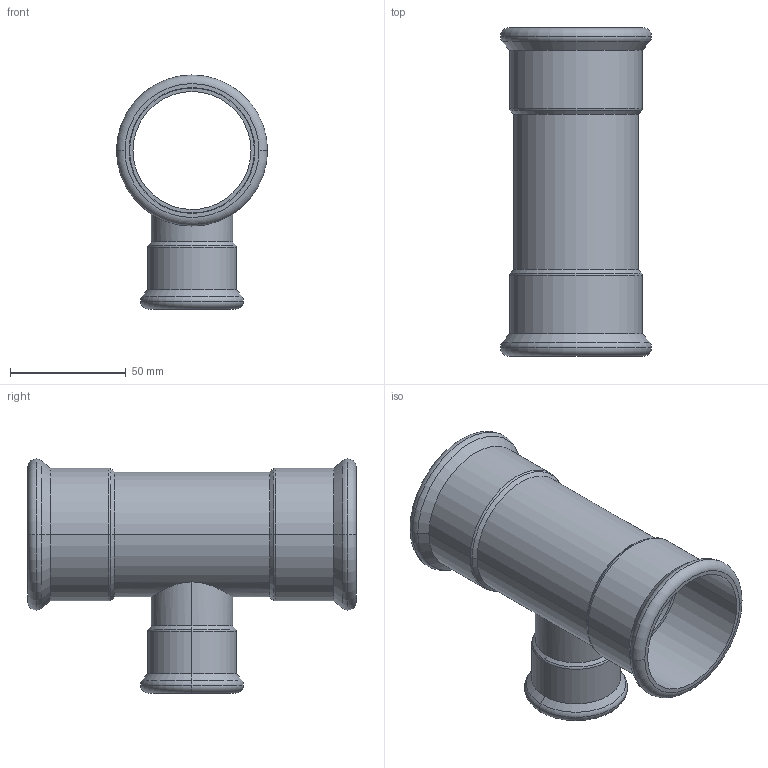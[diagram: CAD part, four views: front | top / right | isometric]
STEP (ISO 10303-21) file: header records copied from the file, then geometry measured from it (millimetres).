
FILE_DESCRIPTION(('CoCreate Modeling STEP Export'),'2;1');
FILE_NAME('C1415 54x35x54.stp','2014-11-12T10:46:30',(''),(''),'CoCreate Modeling STEP processor for AP214 (Solid Model)','CoCreate Modeling 17.00A 17-Jun-2010 (C) Parametric Technology GmbH','');
FILE_SCHEMA(('AUTOMOTIVE_DESIGN { 1 0 10303 214 1 1 1 1 }'));
Length unit declared in the file: millimetre
Products named in the file (2): C1415_54x35x54
Assembly tree (1 placements, depth 2):
  C1415_54x35x54
    C1415_54x35x54
Bounding box: 65.3 x 142 x 101.15 mm (x, y, z)
Volume: 57230.2 mm3; surface area: 62427.5 mm2
Topology: 1 solids, 1 shells, 66 faces, 134 edges, 78 vertices
Faces by surface type: cylinder 27, torus 18, cone 12, plane 9
Entity records: 2629 total; most frequent: CARTESIAN_POINT 1402, ORIENTED_EDGE 268, DIRECTION 220, EDGE_CURVE 134, AXIS2_PLACEMENT_3D 91, VERTEX_POINT 78, EDGE_LOOP 76, FACE_OUTER_BOUND 66
